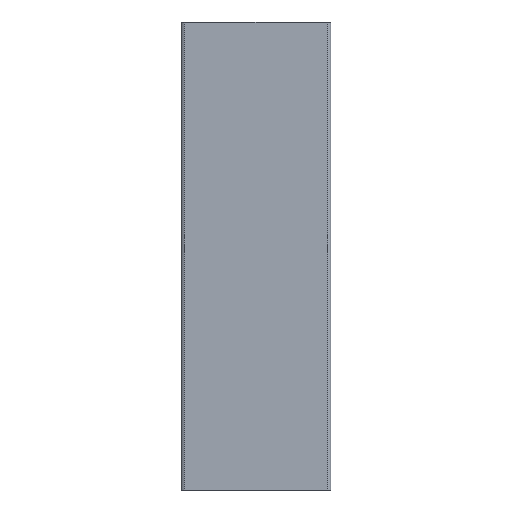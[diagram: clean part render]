
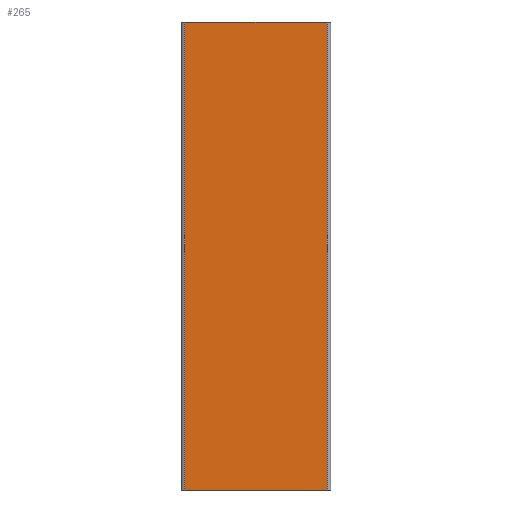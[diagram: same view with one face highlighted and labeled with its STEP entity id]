
A CAD part, left-side view. The second image highlights one B-rep face of the part: STEP entity #265.
In plain terms, the highlighted planar face has unit normal (-1, 0, 0).
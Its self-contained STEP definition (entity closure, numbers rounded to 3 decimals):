
#37=FACE_OUTER_BOUND('',#52,.T.);
#52=EDGE_LOOP('',(#215,#216,#217,#218));
#78=LINE('',#440,#106);
#79=LINE('',#445,#107);
#80=LINE('',#448,#108);
#81=LINE('',#449,#109);
#106=VECTOR('',#359,10.);
#107=VECTOR('',#366,10.);
#108=VECTOR('',#369,10.);
#109=VECTOR('',#370,10.);
#132=VERTEX_POINT('',#437);
#133=VERTEX_POINT('',#439);
#134=VERTEX_POINT('',#443);
#135=VERTEX_POINT('',#447);
#162=EDGE_CURVE('',#133,#132,#78,.T.);
#165=EDGE_CURVE('',#133,#134,#79,.T.);
#166=EDGE_CURVE('',#135,#132,#80,.T.);
#167=EDGE_CURVE('',#134,#135,#81,.T.);
#215=ORIENTED_EDGE('',*,*,#165,.F.);
#216=ORIENTED_EDGE('',*,*,#162,.T.);
#217=ORIENTED_EDGE('',*,*,#166,.F.);
#218=ORIENTED_EDGE('',*,*,#167,.F.);
#253=PLANE('',#308);
#265=ADVANCED_FACE('',(#37),#253,.T.);
#308=AXIS2_PLACEMENT_3D('',#446,#367,#368);
#359=DIRECTION('',(0.,-1.,0.));
#366=DIRECTION('',(0.,0.,1.));
#367=DIRECTION('center_axis',(-1.,0.,0.));
#368=DIRECTION('ref_axis',(0.,-1.,0.));
#369=DIRECTION('',(0.,0.,-1.));
#370=DIRECTION('',(0.,-1.,0.));
#437=CARTESIAN_POINT('',(-40.,-38.,0.));
#439=CARTESIAN_POINT('',(-40.,38.,0.));
#440=CARTESIAN_POINT('',(-40.,40.,0.));
#443=CARTESIAN_POINT('',(-40.,38.,250.));
#445=CARTESIAN_POINT('',(-40.,38.,0.));
#446=CARTESIAN_POINT('Origin',(-40.,40.,0.));
#447=CARTESIAN_POINT('',(-40.,-38.,250.));
#448=CARTESIAN_POINT('',(-40.,-38.,0.));
#449=CARTESIAN_POINT('',(-40.,40.,250.));
